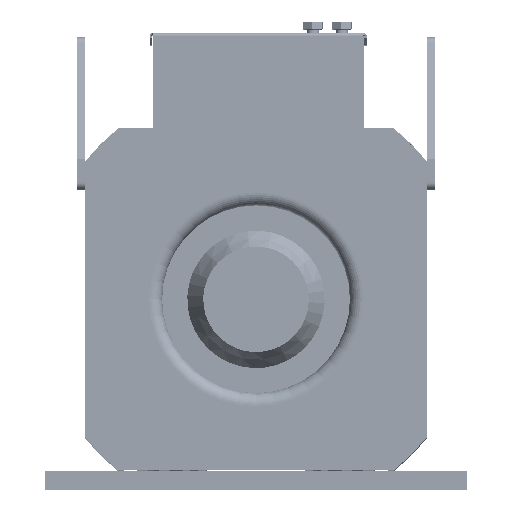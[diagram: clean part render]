
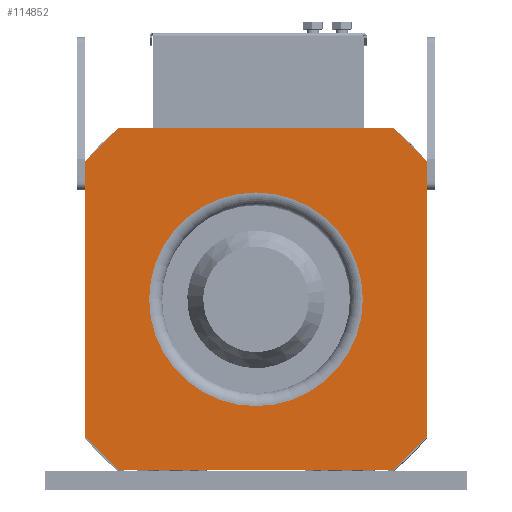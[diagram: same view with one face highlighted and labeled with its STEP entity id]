
A CAD part, top view. The second image highlights one B-rep face of the part: STEP entity #114852.
In plain terms, the highlighted planar face has unit normal (0, 0, 1) as drawn and (-1, 0, 0) by its records, which use the part's own axes.
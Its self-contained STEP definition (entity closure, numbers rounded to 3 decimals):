
#1303 = LINE ( 'NONE', #81122, #91593 ) ;
#1398 = DIRECTION ( 'NONE',  ( 0., -0.707, 0.707 ) ) ;
#2362 = VERTEX_POINT ( 'NONE', #22048 ) ;
#4942 = CARTESIAN_POINT ( 'NONE',  ( 0., -90., 112. ) ) ;
#9125 = CARTESIAN_POINT ( 'NONE',  ( 0., 112., -90. ) ) ;
#10331 = LINE ( 'NONE', #102822, #126300 ) ;
#11997 = DIRECTION ( 'NONE',  ( 0., -1., 0. ) ) ;
#15761 = LINE ( 'NONE', #104566, #64790 ) ;
#22048 = CARTESIAN_POINT ( 'NONE',  ( 0., 112., -90. ) ) ;
#22297 = CARTESIAN_POINT ( 'NONE',  ( 0., 0., 0. ) ) ;
#22445 = VERTEX_POINT ( 'NONE', #67676 ) ;
#23711 = EDGE_CURVE ( 'NONE', #37588, #2362, #86424, .T. ) ;
#23740 = CARTESIAN_POINT ( 'NONE',  ( 0., 90., -112. ) ) ;
#24206 = FACE_OUTER_BOUND ( 'NONE', #27722, .T. ) ;
#24387 = ORIENTED_EDGE ( 'NONE', *, *, #83874, .F. ) ;
#24820 = EDGE_CURVE ( 'NONE', #102869, #54021, #51913, .T. ) ;
#26090 = DIRECTION ( 'NONE',  ( 1., 0., 0. ) ) ;
#27722 = EDGE_LOOP ( 'NONE', ( #120744, #43947, #68385, #121449, #123315, #78404, #24387, #106449 ) ) ;
#30914 = ORIENTED_EDGE ( 'NONE', *, *, #116565, .F. ) ;
#32250 = DIRECTION ( 'NONE',  ( 0., -0.707, -0.707 ) ) ;
#32341 = LINE ( 'NONE', #72220, #72734 ) ;
#34376 = DIRECTION ( 'NONE',  ( -1., 0., 0. ) ) ;
#34874 = VECTOR ( 'NONE', #11997, 1000. ) ;
#35114 = DIRECTION ( 'NONE',  ( 0., 0., -1. ) ) ;
#37588 = VERTEX_POINT ( 'NONE', #23740 ) ;
#37786 = EDGE_CURVE ( 'NONE', #123394, #42495, #115273, .T. ) ;
#38920 = ORIENTED_EDGE ( 'NONE', *, *, #37786, .F. ) ;
#42495 = VERTEX_POINT ( 'NONE', #113604 ) ;
#43947 = ORIENTED_EDGE ( 'NONE', *, *, #110749, .F. ) ;
#51913 = LINE ( 'NONE', #72505, #34874 ) ;
#54021 = VERTEX_POINT ( 'NONE', #4942 ) ;
#55316 = VECTOR ( 'NONE', #113671, 1000. ) ;
#62920 = DIRECTION ( 'NONE',  ( 0., 0.707, -0.707 ) ) ;
#64049 = FACE_BOUND ( 'NONE', #123475, .T. ) ;
#64350 = CARTESIAN_POINT ( 'NONE',  ( 0., 112., 90. ) ) ;
#64667 = DIRECTION ( 'NONE',  ( 0., 0., 1. ) ) ;
#64790 = VECTOR ( 'NONE', #64667, 1000. ) ;
#67438 = VECTOR ( 'NONE', #76866, 1000. ) ;
#67676 = CARTESIAN_POINT ( 'NONE',  ( 0., -112., -90. ) ) ;
#67703 = VERTEX_POINT ( 'NONE', #108917 ) ;
#67848 = CARTESIAN_POINT ( 'NONE',  ( 0., 155., -112. ) ) ;
#67908 = AXIS2_PLACEMENT_3D ( 'NONE', #22297, #71204, #110494 ) ;
#68385 = ORIENTED_EDGE ( 'NONE', *, *, #114921, .F. ) ;
#71204 = DIRECTION ( 'NONE',  ( -1., 0., 0. ) ) ;
#72220 = CARTESIAN_POINT ( 'NONE',  ( 0., 90., 112. ) ) ;
#72505 = CARTESIAN_POINT ( 'NONE',  ( 0., 155., 112. ) ) ;
#72734 = VECTOR ( 'NONE', #1398, 1000. ) ;
#73604 = DIRECTION ( 'NONE',  ( 0., 0., 1. ) ) ;
#73771 = CARTESIAN_POINT ( 'NONE',  ( 0., -112., 0. ) ) ;
#76866 = DIRECTION ( 'NONE',  ( 0., 1., 0. ) ) ;
#78404 = ORIENTED_EDGE ( 'NONE', *, *, #126138, .F. ) ;
#81122 = CARTESIAN_POINT ( 'NONE',  ( 0., -112., 90. ) ) ;
#83668 = AXIS2_PLACEMENT_3D ( 'NONE', #122530, #34376, #73604 ) ;
#83772 = VERTEX_POINT ( 'NONE', #90524 ) ;
#83874 = EDGE_CURVE ( 'NONE', #83772, #22445, #115555, .T. ) ;
#86424 = LINE ( 'NONE', #9125, #90135 ) ;
#86562 = LINE ( 'NONE', #67848, #67438 ) ;
#89240 = CARTESIAN_POINT ( 'NONE',  ( 0., 90., 112. ) ) ;
#90135 = VECTOR ( 'NONE', #116011, 1000. ) ;
#90524 = CARTESIAN_POINT ( 'NONE',  ( 0., -112., 90. ) ) ;
#91593 = VECTOR ( 'NONE', #32250, 1000. ) ;
#102703 = CARTESIAN_POINT ( 'NONE',  ( 0., 155., 0. ) ) ;
#102822 = CARTESIAN_POINT ( 'NONE',  ( 0., -90., -112. ) ) ;
#102869 = VERTEX_POINT ( 'NONE', #89240 ) ;
#104566 = CARTESIAN_POINT ( 'NONE',  ( 0., 112., 0. ) ) ;
#106225 = CIRCLE ( 'NONE', #83668, 70. ) ;
#106449 = ORIENTED_EDGE ( 'NONE', *, *, #127227, .F. ) ;
#108917 = CARTESIAN_POINT ( 'NONE',  ( 0., -90., -112. ) ) ;
#110494 = DIRECTION ( 'NONE',  ( 0., 0., 1. ) ) ;
#110749 = EDGE_CURVE ( 'NONE', #121702, #102869, #32341, .T. ) ;
#113604 = CARTESIAN_POINT ( 'NONE',  ( 0., 0., -70. ) ) ;
#113671 = DIRECTION ( 'NONE',  ( 0., 0., -1. ) ) ;
#114165 = AXIS2_PLACEMENT_3D ( 'NONE', #102703, #26090, #35114 ) ;
#114259 = PLANE ( 'NONE',  #114165 ) ;
#114852 = ADVANCED_FACE ( 'NONE', ( #64049, #24206 ), #114259, .F. ) ;
#114921 = EDGE_CURVE ( 'NONE', #2362, #121702, #15761, .T. ) ;
#115273 = CIRCLE ( 'NONE', #67908, 70. ) ;
#115555 = LINE ( 'NONE', #73771, #55316 ) ;
#116011 = DIRECTION ( 'NONE',  ( 0., 0.707, 0.707 ) ) ;
#116565 = EDGE_CURVE ( 'NONE', #42495, #123394, #106225, .T. ) ;
#118187 = EDGE_CURVE ( 'NONE', #67703, #37588, #86562, .T. ) ;
#120744 = ORIENTED_EDGE ( 'NONE', *, *, #24820, .F. ) ;
#121449 = ORIENTED_EDGE ( 'NONE', *, *, #23711, .F. ) ;
#121702 = VERTEX_POINT ( 'NONE', #64350 ) ;
#122530 = CARTESIAN_POINT ( 'NONE',  ( 0., 0., 0. ) ) ;
#123315 = ORIENTED_EDGE ( 'NONE', *, *, #118187, .F. ) ;
#123394 = VERTEX_POINT ( 'NONE', #127224 ) ;
#123475 = EDGE_LOOP ( 'NONE', ( #38920, #30914 ) ) ;
#126138 = EDGE_CURVE ( 'NONE', #22445, #67703, #10331, .T. ) ;
#126300 = VECTOR ( 'NONE', #62920, 1000. ) ;
#127224 = CARTESIAN_POINT ( 'NONE',  ( 0., 0., 70. ) ) ;
#127227 = EDGE_CURVE ( 'NONE', #54021, #83772, #1303, .T. ) ;
